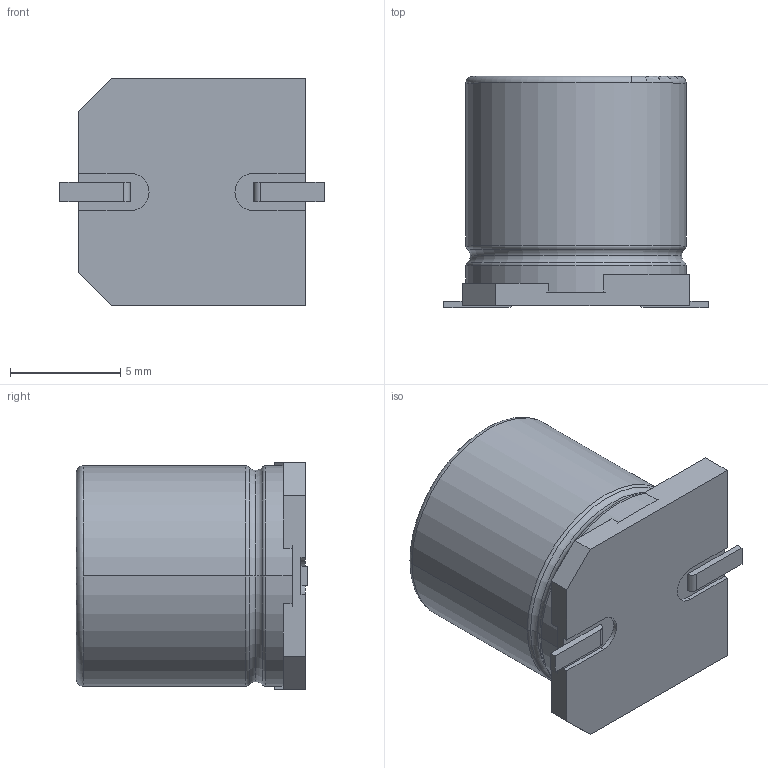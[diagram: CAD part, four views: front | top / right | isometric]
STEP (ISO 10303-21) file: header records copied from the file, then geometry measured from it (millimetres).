
FILE_DESCRIPTION (( 'STEP AP214' ), '1' );
FILE_NAME ('EEV107M063A9PAA.STEP', '2025-04-27T19:33:30', ( '' ), ( '' ), 'SwSTEP 2.0', 'SolidWorks 2021', '' );
FILE_SCHEMA (( 'AUTOMOTIVE_DESIGN' ));
Length unit declared in the file: millimetre
Products named in the file (1): EEV107M063A9PAA
Bounding box: 12 x 10.5 x 10.3 mm (x, y, z)
Volume: 838.3 mm3; surface area: 781.3 mm2
Topology: 5 solids, 5 shells, 57 faces, 129 edges, 82 vertices
Faces by surface type: plane 35, cylinder 12, torus 10
Entity records: 1672 total; most frequent: CARTESIAN_POINT 289, DIRECTION 284, ORIENTED_EDGE 258, EDGE_CURVE 129, AXIS2_PLACEMENT_3D 101, VECTOR 82, VERTEX_POINT 82, LINE 82
